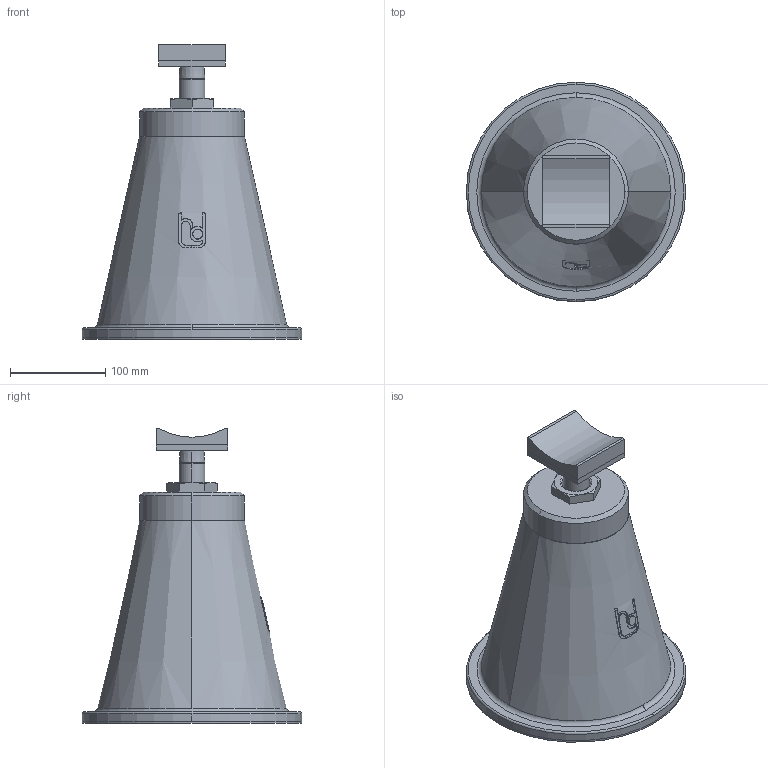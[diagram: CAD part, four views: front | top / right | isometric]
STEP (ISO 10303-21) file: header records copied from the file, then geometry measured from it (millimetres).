
FILE_DESCRIPTION(('STEP AP214'),'1');
FILE_NAME('RSRFA_DN125.stp','2018-06-25T09:48:20',(' '),(' '),'Spatial InterOp 3D',' ',' ');
FILE_SCHEMA(('automotive_design'));
Length unit declared in the file: millimetre
Products named in the file (6): 1; 2; 3; 4; 5; 6
Bounding box: 230 x 230 x 309 mm (x, y, z)
Volume: 4929620.2 mm3; surface area: 335630.5 mm2
Topology: 6 solids, 7 shells, 118 faces, 279 edges, 179 vertices
Faces by surface type: plane 51, cylinder 34, cone 25, torus 8
Entity records: 4842 total; most frequent: CARTESIAN_POINT 1040, DIRECTION 588, ORIENTED_EDGE 558, EDGE_CURVE 279, AXIS2_PLACEMENT_3D 227, VERTEX_POINT 179, LINE 134, VECTOR 134
